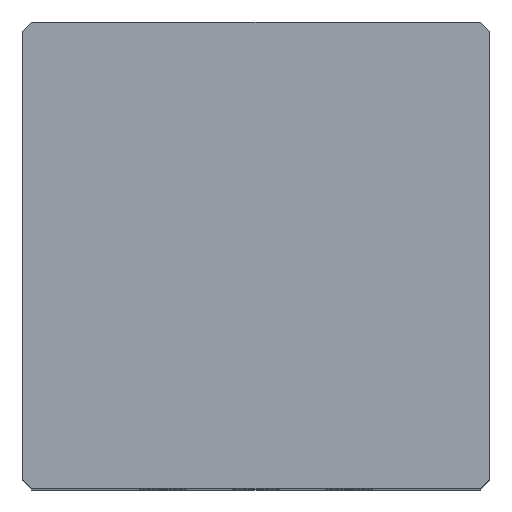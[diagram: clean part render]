
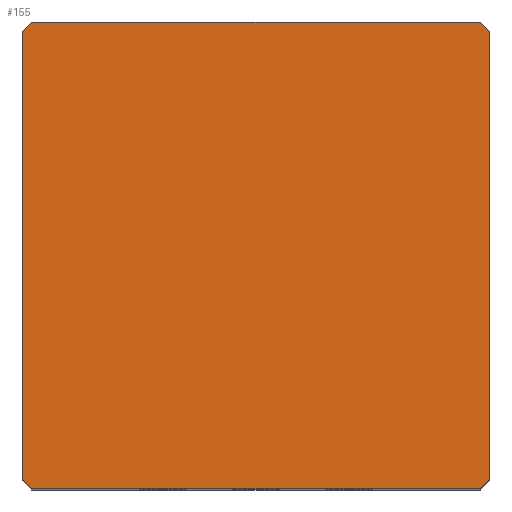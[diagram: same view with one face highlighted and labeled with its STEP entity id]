
A CAD part, top view. The second image highlights one B-rep face of the part: STEP entity #155.
In plain terms, the highlighted planar face has unit normal (0, 0, 1).
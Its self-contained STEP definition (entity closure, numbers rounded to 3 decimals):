
#39 = EDGE_CURVE('',#40,#42,#44,.T.);
#40 = VERTEX_POINT('',#41);
#41 = CARTESIAN_POINT('',(-10.,-9.6,27.25));
#42 = VERTEX_POINT('',#43);
#43 = CARTESIAN_POINT('',(-10.,9.6,27.25));
#44 = SURFACE_CURVE('',#45,(#49,#61),.PCURVE_S1.);
#45 = LINE('',#46,#47);
#46 = CARTESIAN_POINT('',(-10.,-10.,27.25));
#47 = VECTOR('',#48,1.);
#48 = DIRECTION('',(-0.,1.,0.));
#49 = PCURVE('',#50,#55);
#50 = PLANE('',#51);
#51 = AXIS2_PLACEMENT_3D('',#52,#53,#54);
#52 = CARTESIAN_POINT('',(-10.,-10.,0.));
#53 = DIRECTION('',(1.,0.,-0.));
#54 = DIRECTION('',(0.,0.,1.));
#55 = DEFINITIONAL_REPRESENTATION('',(#56),#60);
#56 = LINE('',#57,#58);
#57 = CARTESIAN_POINT('',(27.25,0.));
#58 = VECTOR('',#59,1.);
#59 = DIRECTION('',(0.,-1.));
#60 = ( GEOMETRIC_REPRESENTATION_CONTEXT(2) 
PARAMETRIC_REPRESENTATION_CONTEXT() REPRESENTATION_CONTEXT('2D SPACE',''
  ) );
#61 = PCURVE('',#62,#67);
#62 = PLANE('',#63);
#63 = AXIS2_PLACEMENT_3D('',#64,#65,#66);
#64 = CARTESIAN_POINT('',(-10.,-10.,27.25));
#65 = DIRECTION('',(0.,0.,1.));
#66 = DIRECTION('',(1.,0.,-0.));
#67 = DEFINITIONAL_REPRESENTATION('',(#68),#72);
#68 = LINE('',#69,#70);
#69 = CARTESIAN_POINT('',(0.,0.));
#70 = VECTOR('',#71,1.);
#71 = DIRECTION('',(0.,1.));
#72 = ( GEOMETRIC_REPRESENTATION_CONTEXT(2) 
PARAMETRIC_REPRESENTATION_CONTEXT() REPRESENTATION_CONTEXT('2D SPACE',''
  ) );
#90 = PLANE('',#91);
#91 = AXIS2_PLACEMENT_3D('',#92,#93,#94);
#92 = CARTESIAN_POINT('',(-9.8,-9.8,0.));
#93 = DIRECTION('',(-0.707,-0.707,0.));
#94 = DIRECTION('',(-0.,-0.,-1.));
#144 = PLANE('',#145);
#145 = AXIS2_PLACEMENT_3D('',#146,#147,#148);
#146 = CARTESIAN_POINT('',(-9.8,9.8,0.));
#147 = DIRECTION('',(0.707,-0.707,0.));
#148 = DIRECTION('',(-0.,-0.,-1.));
#155 = ADVANCED_FACE('',(#156),#62,.T.);
#156 = FACE_BOUND('',#157,.T.);
#157 = EDGE_LOOP('',(#158,#159,#182,#210,#238,#266,#294,#322));
#158 = ORIENTED_EDGE('',*,*,#39,.F.);
#159 = ORIENTED_EDGE('',*,*,#160,.T.);
#160 = EDGE_CURVE('',#40,#161,#163,.T.);
#161 = VERTEX_POINT('',#162);
#162 = CARTESIAN_POINT('',(-9.6,-10.,27.25));
#163 = SURFACE_CURVE('',#164,(#168,#175),.PCURVE_S1.);
#164 = LINE('',#165,#166);
#165 = CARTESIAN_POINT('',(-9.8,-9.8,27.25));
#166 = VECTOR('',#167,1.);
#167 = DIRECTION('',(0.707,-0.707,0.));
#168 = PCURVE('',#62,#169);
#169 = DEFINITIONAL_REPRESENTATION('',(#170),#174);
#170 = LINE('',#171,#172);
#171 = CARTESIAN_POINT('',(0.2,0.2));
#172 = VECTOR('',#173,1.);
#173 = DIRECTION('',(0.707,-0.707));
#174 = ( GEOMETRIC_REPRESENTATION_CONTEXT(2) 
PARAMETRIC_REPRESENTATION_CONTEXT() REPRESENTATION_CONTEXT('2D SPACE',''
  ) );
#175 = PCURVE('',#90,#176);
#176 = DEFINITIONAL_REPRESENTATION('',(#177),#181);
#177 = LINE('',#178,#179);
#178 = CARTESIAN_POINT('',(-27.25,0.));
#179 = VECTOR('',#180,1.);
#180 = DIRECTION('',(-0.,1.));
#181 = ( GEOMETRIC_REPRESENTATION_CONTEXT(2) 
PARAMETRIC_REPRESENTATION_CONTEXT() REPRESENTATION_CONTEXT('2D SPACE',''
  ) );
#182 = ORIENTED_EDGE('',*,*,#183,.T.);
#183 = EDGE_CURVE('',#161,#184,#186,.T.);
#184 = VERTEX_POINT('',#185);
#185 = CARTESIAN_POINT('',(9.6,-10.,27.25));
#186 = SURFACE_CURVE('',#187,(#191,#198),.PCURVE_S1.);
#187 = LINE('',#188,#189);
#188 = CARTESIAN_POINT('',(-10.,-10.,27.25));
#189 = VECTOR('',#190,1.);
#190 = DIRECTION('',(1.,0.,-0.));
#191 = PCURVE('',#62,#192);
#192 = DEFINITIONAL_REPRESENTATION('',(#193),#197);
#193 = LINE('',#194,#195);
#194 = CARTESIAN_POINT('',(0.,0.));
#195 = VECTOR('',#196,1.);
#196 = DIRECTION('',(1.,0.));
#197 = ( GEOMETRIC_REPRESENTATION_CONTEXT(2) 
PARAMETRIC_REPRESENTATION_CONTEXT() REPRESENTATION_CONTEXT('2D SPACE',''
  ) );
#198 = PCURVE('',#199,#204);
#199 = PLANE('',#200);
#200 = AXIS2_PLACEMENT_3D('',#201,#202,#203);
#201 = CARTESIAN_POINT('',(-10.,-10.,0.));
#202 = DIRECTION('',(-0.,1.,0.));
#203 = DIRECTION('',(0.,0.,1.));
#204 = DEFINITIONAL_REPRESENTATION('',(#205),#209);
#205 = LINE('',#206,#207);
#206 = CARTESIAN_POINT('',(27.25,0.));
#207 = VECTOR('',#208,1.);
#208 = DIRECTION('',(0.,1.));
#209 = ( GEOMETRIC_REPRESENTATION_CONTEXT(2) 
PARAMETRIC_REPRESENTATION_CONTEXT() REPRESENTATION_CONTEXT('2D SPACE',''
  ) );
#210 = ORIENTED_EDGE('',*,*,#211,.F.);
#211 = EDGE_CURVE('',#212,#184,#214,.T.);
#212 = VERTEX_POINT('',#213);
#213 = CARTESIAN_POINT('',(10.,-9.6,27.25));
#214 = SURFACE_CURVE('',#215,(#219,#226),.PCURVE_S1.);
#215 = LINE('',#216,#217);
#216 = CARTESIAN_POINT('',(4.8,-14.8,27.25));
#217 = VECTOR('',#218,1.);
#218 = DIRECTION('',(-0.707,-0.707,0.));
#219 = PCURVE('',#62,#220);
#220 = DEFINITIONAL_REPRESENTATION('',(#221),#225);
#221 = LINE('',#222,#223);
#222 = CARTESIAN_POINT('',(14.8,-4.8));
#223 = VECTOR('',#224,1.);
#224 = DIRECTION('',(-0.707,-0.707));
#225 = ( GEOMETRIC_REPRESENTATION_CONTEXT(2) 
PARAMETRIC_REPRESENTATION_CONTEXT() REPRESENTATION_CONTEXT('2D SPACE',''
  ) );
#226 = PCURVE('',#227,#232);
#227 = PLANE('',#228);
#228 = AXIS2_PLACEMENT_3D('',#229,#230,#231);
#229 = CARTESIAN_POINT('',(9.8,-9.8,0.));
#230 = DIRECTION('',(-0.707,0.707,0.));
#231 = DIRECTION('',(-0.,-0.,-1.));
#232 = DEFINITIONAL_REPRESENTATION('',(#233),#237);
#233 = LINE('',#234,#235);
#234 = CARTESIAN_POINT('',(-27.25,7.071));
#235 = VECTOR('',#236,1.);
#236 = DIRECTION('',(-0.,1.));
#237 = ( GEOMETRIC_REPRESENTATION_CONTEXT(2) 
PARAMETRIC_REPRESENTATION_CONTEXT() REPRESENTATION_CONTEXT('2D SPACE',''
  ) );
#238 = ORIENTED_EDGE('',*,*,#239,.T.);
#239 = EDGE_CURVE('',#212,#240,#242,.T.);
#240 = VERTEX_POINT('',#241);
#241 = CARTESIAN_POINT('',(10.,9.6,27.25));
#242 = SURFACE_CURVE('',#243,(#247,#254),.PCURVE_S1.);
#243 = LINE('',#244,#245);
#244 = CARTESIAN_POINT('',(10.,-10.,27.25));
#245 = VECTOR('',#246,1.);
#246 = DIRECTION('',(-0.,1.,0.));
#247 = PCURVE('',#62,#248);
#248 = DEFINITIONAL_REPRESENTATION('',(#249),#253);
#249 = LINE('',#250,#251);
#250 = CARTESIAN_POINT('',(20.,0.));
#251 = VECTOR('',#252,1.);
#252 = DIRECTION('',(0.,1.));
#253 = ( GEOMETRIC_REPRESENTATION_CONTEXT(2) 
PARAMETRIC_REPRESENTATION_CONTEXT() REPRESENTATION_CONTEXT('2D SPACE',''
  ) );
#254 = PCURVE('',#255,#260);
#255 = PLANE('',#256);
#256 = AXIS2_PLACEMENT_3D('',#257,#258,#259);
#257 = CARTESIAN_POINT('',(10.,-10.,0.));
#258 = DIRECTION('',(1.,0.,-0.));
#259 = DIRECTION('',(0.,0.,1.));
#260 = DEFINITIONAL_REPRESENTATION('',(#261),#265);
#261 = LINE('',#262,#263);
#262 = CARTESIAN_POINT('',(27.25,0.));
#263 = VECTOR('',#264,1.);
#264 = DIRECTION('',(0.,-1.));
#265 = ( GEOMETRIC_REPRESENTATION_CONTEXT(2) 
PARAMETRIC_REPRESENTATION_CONTEXT() REPRESENTATION_CONTEXT('2D SPACE',''
  ) );
#266 = ORIENTED_EDGE('',*,*,#267,.T.);
#267 = EDGE_CURVE('',#240,#268,#270,.T.);
#268 = VERTEX_POINT('',#269);
#269 = CARTESIAN_POINT('',(9.6,10.,27.25));
#270 = SURFACE_CURVE('',#271,(#275,#282),.PCURVE_S1.);
#271 = LINE('',#272,#273);
#272 = CARTESIAN_POINT('',(9.8,9.8,27.25));
#273 = VECTOR('',#274,1.);
#274 = DIRECTION('',(-0.707,0.707,0.));
#275 = PCURVE('',#62,#276);
#276 = DEFINITIONAL_REPRESENTATION('',(#277),#281);
#277 = LINE('',#278,#279);
#278 = CARTESIAN_POINT('',(19.8,19.8));
#279 = VECTOR('',#280,1.);
#280 = DIRECTION('',(-0.707,0.707));
#281 = ( GEOMETRIC_REPRESENTATION_CONTEXT(2) 
PARAMETRIC_REPRESENTATION_CONTEXT() REPRESENTATION_CONTEXT('2D SPACE',''
  ) );
#282 = PCURVE('',#283,#288);
#283 = PLANE('',#284);
#284 = AXIS2_PLACEMENT_3D('',#285,#286,#287);
#285 = CARTESIAN_POINT('',(9.8,9.8,0.));
#286 = DIRECTION('',(0.707,0.707,0.));
#287 = DIRECTION('',(-0.,0.,-1.));
#288 = DEFINITIONAL_REPRESENTATION('',(#289),#293);
#289 = LINE('',#290,#291);
#290 = CARTESIAN_POINT('',(-27.25,0.));
#291 = VECTOR('',#292,1.);
#292 = DIRECTION('',(-0.,1.));
#293 = ( GEOMETRIC_REPRESENTATION_CONTEXT(2) 
PARAMETRIC_REPRESENTATION_CONTEXT() REPRESENTATION_CONTEXT('2D SPACE',''
  ) );
#294 = ORIENTED_EDGE('',*,*,#295,.F.);
#295 = EDGE_CURVE('',#296,#268,#298,.T.);
#296 = VERTEX_POINT('',#297);
#297 = CARTESIAN_POINT('',(-9.6,10.,27.25));
#298 = SURFACE_CURVE('',#299,(#303,#310),.PCURVE_S1.);
#299 = LINE('',#300,#301);
#300 = CARTESIAN_POINT('',(-10.,10.,27.25));
#301 = VECTOR('',#302,1.);
#302 = DIRECTION('',(1.,0.,-0.));
#303 = PCURVE('',#62,#304);
#304 = DEFINITIONAL_REPRESENTATION('',(#305),#309);
#305 = LINE('',#306,#307);
#306 = CARTESIAN_POINT('',(0.,20.));
#307 = VECTOR('',#308,1.);
#308 = DIRECTION('',(1.,0.));
#309 = ( GEOMETRIC_REPRESENTATION_CONTEXT(2) 
PARAMETRIC_REPRESENTATION_CONTEXT() REPRESENTATION_CONTEXT('2D SPACE',''
  ) );
#310 = PCURVE('',#311,#316);
#311 = PLANE('',#312);
#312 = AXIS2_PLACEMENT_3D('',#313,#314,#315);
#313 = CARTESIAN_POINT('',(-10.,10.,0.));
#314 = DIRECTION('',(-0.,1.,0.));
#315 = DIRECTION('',(0.,0.,1.));
#316 = DEFINITIONAL_REPRESENTATION('',(#317),#321);
#317 = LINE('',#318,#319);
#318 = CARTESIAN_POINT('',(27.25,0.));
#319 = VECTOR('',#320,1.);
#320 = DIRECTION('',(0.,1.));
#321 = ( GEOMETRIC_REPRESENTATION_CONTEXT(2) 
PARAMETRIC_REPRESENTATION_CONTEXT() REPRESENTATION_CONTEXT('2D SPACE',''
  ) );
#322 = ORIENTED_EDGE('',*,*,#323,.F.);
#323 = EDGE_CURVE('',#42,#296,#324,.T.);
#324 = SURFACE_CURVE('',#325,(#329,#336),.PCURVE_S1.);
#325 = LINE('',#326,#327);
#326 = CARTESIAN_POINT('',(-14.8,4.8,27.25));
#327 = VECTOR('',#328,1.);
#328 = DIRECTION('',(0.707,0.707,-0.));
#329 = PCURVE('',#62,#330);
#330 = DEFINITIONAL_REPRESENTATION('',(#331),#335);
#331 = LINE('',#332,#333);
#332 = CARTESIAN_POINT('',(-4.8,14.8));
#333 = VECTOR('',#334,1.);
#334 = DIRECTION('',(0.707,0.707));
#335 = ( GEOMETRIC_REPRESENTATION_CONTEXT(2) 
PARAMETRIC_REPRESENTATION_CONTEXT() REPRESENTATION_CONTEXT('2D SPACE',''
  ) );
#336 = PCURVE('',#144,#337);
#337 = DEFINITIONAL_REPRESENTATION('',(#338),#342);
#338 = LINE('',#339,#340);
#339 = CARTESIAN_POINT('',(-27.25,-7.071));
#340 = VECTOR('',#341,1.);
#341 = DIRECTION('',(-0.,1.));
#342 = ( GEOMETRIC_REPRESENTATION_CONTEXT(2) 
PARAMETRIC_REPRESENTATION_CONTEXT() REPRESENTATION_CONTEXT('2D SPACE',''
  ) );
